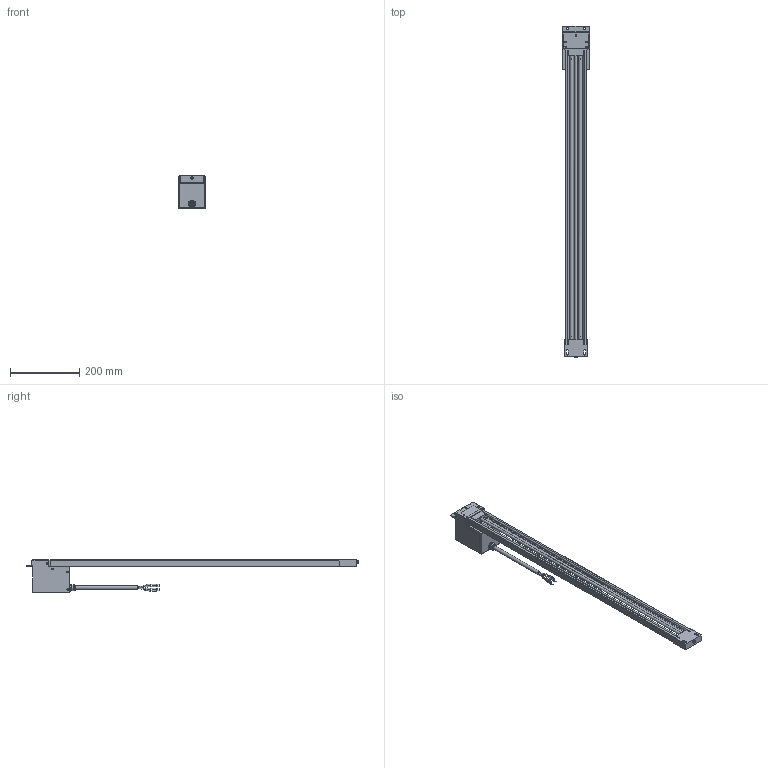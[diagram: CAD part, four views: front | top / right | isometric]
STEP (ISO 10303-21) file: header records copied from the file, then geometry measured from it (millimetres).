
FILE_DESCRIPTION(('Simco (Nederland) B.V.','HiCAD-Model','HiCAD-STEP-TRANSLATION','For information only'),'2;1');
FILE_NAME('SIMCO.STP','2012-01-01T00:00:00',('AB'),('www.simco-ion.nl'),' HiCAD 2011, Step 1600.0 ','HiCAD 2011','CONFIDENTIAL');
FILE_SCHEMA(('AUTOMOTIVE_DESIGN { 1 2 10303 214 0 1 1 1 }'));
Length unit declared in the file: millimetre
Products named in the file (6): SIMCO_P_SH_N_EX_800_960; SIMCO0P0SH0N0EX08000960; P_SH_N_EX; SCHROEF_M5; N125; N7513BE
Assembly tree (5 placements, depth 3):
  SIMCO_P_SH_N_EX_800_960
    SIMCO0P0SH0N0EX08000960
      P_SH_N_EX
      SCHROEF_M5
      N125
      N7513BE
Bounding box: 75.8 x 956.26 x 94.8 mm (x, y, z)
Surface area: 394098.3 mm2
Topology: 7 solids, 8 shells, 524 faces, 1251 edges, 805 vertices
Faces by surface type: plane 268, cylinder 187, torus 60, cone 9
Full cylindrical faces by diameter (mm): 1.4 x30, 1.45 x4, 2 x4, 3 x33, 4.019 x1, 4.5 x8, 4.7 x15, 5.3 x1, 5.5 x2, 6 x2, 6.1 x1, 7.4 x2, 7.6 x2, 8 x1, 8.2 x2, 10.5 x2, 10.6 x2, 11 x3, 12 x2, 12.5 x2, 14 x1, 17.8 x2
Entity records: 23986 total; most frequent: CARTESIAN_POINT 7615, DIRECTION 2481, ORIENTED_EDGE 1912, AXIS2_PLACEMENT_3D 1014, COLOUR_RGB 980, PRESENTATION_STYLE_ASSIGNMENT 980, OVER_RIDING_STYLED_ITEM 976, EDGE_CURVE 956
